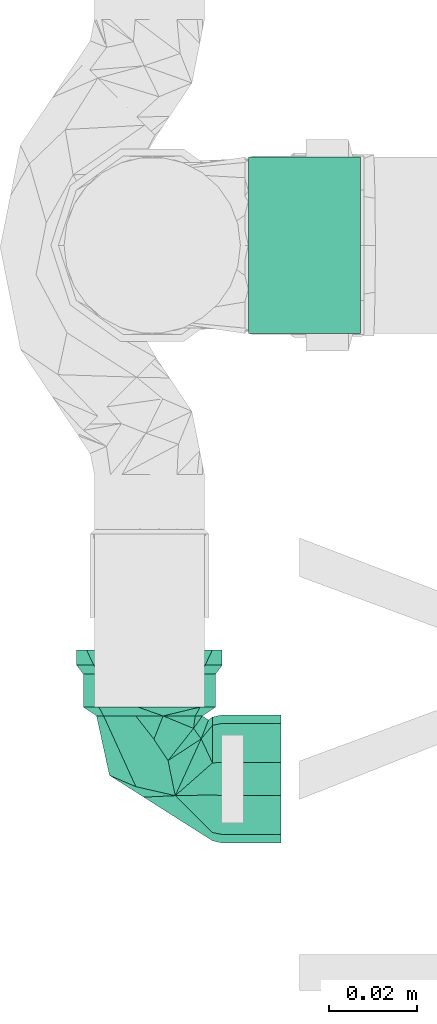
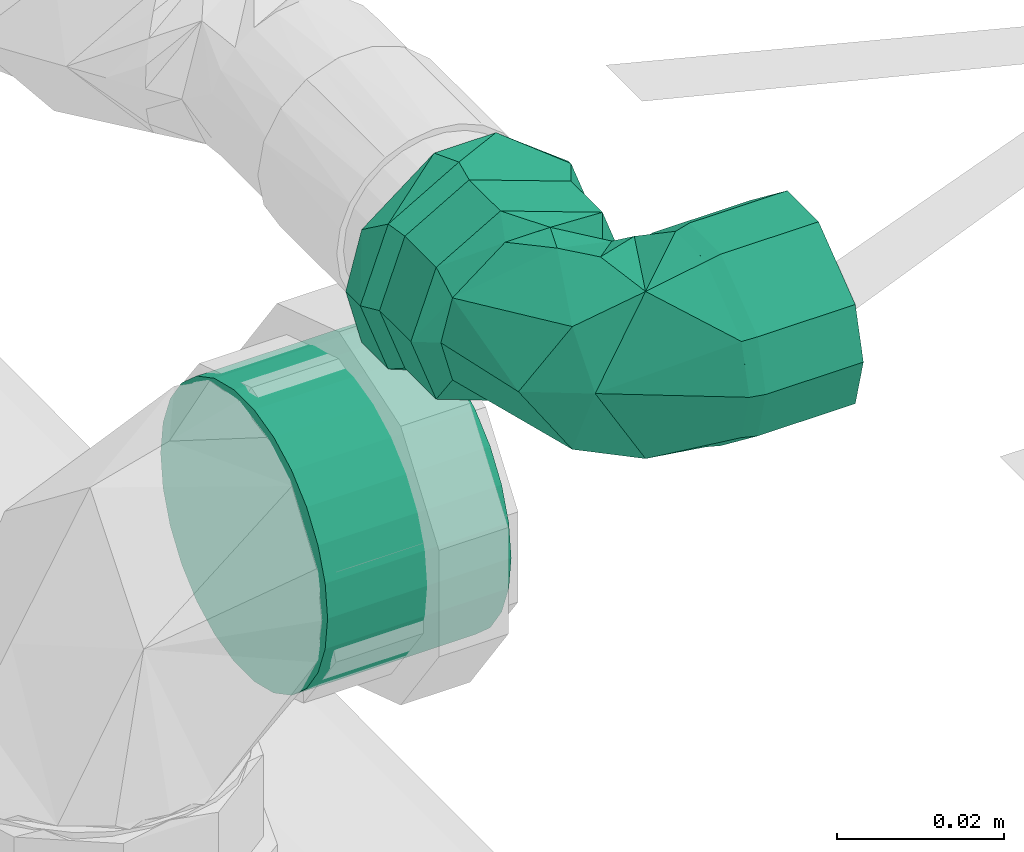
# One storey, part 318 of 589: 1 flow fitting, 1 flow segment.
"""IFC2X3 building model written with IfcOpenShell, lengths in millimetres."""

from ifc_helpers import new_model, entity, si_unit, converted_unit, derived_unit, direction, frame, origin, origin_2d_with_axis, place, context, subcontext, project, spatial, circle, extrude, faceted_brep, source, transform, mapped, material, type_object, type_shapes, element, save


model = new_model("IFC2X3")

# Units and contexts
model_context = context("Model", 3, precision=0.01, world=origin(), true_north=direction((6.123031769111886e-17, 1.0)))
body_context = subcontext(model_context, "Body", "Model", "MODEL_VIEW")
ifc_project = project(units=[si_unit("LENGTHUNIT", "METRE", prefix="MILLI"), si_unit("AREAUNIT", "SQUARE_METRE"), si_unit("VOLUMEUNIT", "CUBIC_METRE"), converted_unit("PLANEANGLEUNIT", "DEGREE", entity("IfcRatioMeasure", 0.017453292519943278), si_unit("PLANEANGLEUNIT", "RADIAN"), dimensions=[0, 0, 0, 0, 0, 0, 0]), si_unit("MASSUNIT", "GRAM", prefix="KILO"), derived_unit("MASSDENSITYUNIT", [(si_unit("MASSUNIT", "GRAM", prefix="KILO"), 1), (si_unit("LENGTHUNIT", "METRE"), -3)]), derived_unit("IONCONCENTRATIONUNIT", [(si_unit("MASSUNIT", "GRAM", prefix="KILO"), 1), (si_unit("LENGTHUNIT", "METRE"), -3)]), derived_unit("MOMENTOFINERTIAUNIT", [(si_unit("LENGTHUNIT", "METRE"), 4)]), si_unit("TIMEUNIT", "SECOND"), si_unit("FREQUENCYUNIT", "HERTZ"), si_unit("THERMODYNAMICTEMPERATUREUNIT", "DEGREE_CELSIUS"), derived_unit("THERMALTRANSMITTANCEUNIT", [(si_unit("MASSUNIT", "GRAM", prefix="KILO"), 1), (si_unit("THERMODYNAMICTEMPERATUREUNIT", "KELVIN"), -1), (si_unit("TIMEUNIT", "SECOND"), -3)]), derived_unit("THERMALCONDUCTANCEUNIT", [(si_unit("MASSUNIT", "GRAM", prefix="KILO"), 1), (si_unit("THERMODYNAMICTEMPERATUREUNIT", "KELVIN"), -1), (si_unit("TIMEUNIT", "SECOND"), -3), (si_unit("LENGTHUNIT", "METRE"), 1)]), derived_unit("VOLUMETRICFLOWRATEUNIT", [(si_unit("LENGTHUNIT", "METRE"), 3), (si_unit("TIMEUNIT", "SECOND"), -1)]), derived_unit("MASSFLOWRATEUNIT", [(si_unit("MASSUNIT", "GRAM", prefix="KILO"), 1), (si_unit("TIMEUNIT", "SECOND"), -1)]), derived_unit("ROTATIONALFREQUENCYUNIT", [(si_unit("TIMEUNIT", "SECOND"), -1)]), si_unit("ELECTRICCURRENTUNIT", "AMPERE"), si_unit("ELECTRICVOLTAGEUNIT", "VOLT"), si_unit("POWERUNIT", "WATT"), si_unit("FORCEUNIT", "NEWTON", prefix="KILO"), si_unit("ILLUMINANCEUNIT", "LUX"), si_unit("LUMINOUSFLUXUNIT", "LUMEN"), si_unit("LUMINOUSINTENSITYUNIT", "CANDELA"), derived_unit("USERDEFINED", [(si_unit("MASSUNIT", "GRAM", prefix="KILO"), -1), (si_unit("LENGTHUNIT", "METRE"), -2), (si_unit("TIMEUNIT", "SECOND"), 3), (si_unit("LUMINOUSFLUXUNIT", "LUMEN"), 1)]), derived_unit("USERDEFINED", [(si_unit("MASSUNIT", "GRAM", prefix="KILO"), 1), (si_unit("TIMEUNIT", "SECOND"), -3), (si_unit("LENGTHUNIT", "METRE"), 3), (si_unit("ELECTRICCURRENTUNIT", "AMPERE"), -2)]), derived_unit("SOUNDPOWERUNIT", [(si_unit("MASSUNIT", "GRAM", prefix="KILO"), 1), (si_unit("TIMEUNIT", "SECOND"), -3), (si_unit("LENGTHUNIT", "METRE"), 2)]), derived_unit("SOUNDPRESSUREUNIT", [(si_unit("MASSUNIT", "GRAM", prefix="KILO"), 1), (si_unit("LENGTHUNIT", "METRE"), -1), (si_unit("TIMEUNIT", "SECOND"), -2)]), derived_unit("LINEARVELOCITYUNIT", [(si_unit("LENGTHUNIT", "METRE"), 1), (si_unit("TIMEUNIT", "SECOND"), -1)]), si_unit("PRESSUREUNIT", "PASCAL"), derived_unit("USERDEFINED", [(si_unit("MASSUNIT", "GRAM", prefix="KILO"), 1), (si_unit("LENGTHUNIT", "METRE"), -2), (si_unit("TIMEUNIT", "SECOND"), -2)]), derived_unit("LINEARFORCEUNIT", [(si_unit("MASSUNIT", "GRAM", prefix="KILO"), 1), (si_unit("TIMEUNIT", "SECOND"), -2)]), derived_unit("PLANARFORCEUNIT", [(si_unit("MASSUNIT", "GRAM", prefix="KILO"), 1), (si_unit("LENGTHUNIT", "METRE"), -1), (si_unit("TIMEUNIT", "SECOND"), -2)]), derived_unit("SPECIFICHEATCAPACITYUNIT", [(si_unit("THERMODYNAMICTEMPERATUREUNIT", "KELVIN"), -1), (si_unit("LENGTHUNIT", "METRE"), 2), (si_unit("TIMEUNIT", "SECOND"), -2)]), derived_unit("HEATINGVALUEUNIT", [(si_unit("LENGTHUNIT", "METRE"), 2), (si_unit("TIMEUNIT", "SECOND"), -2)]), derived_unit("VAPORPERMEABILITYUNIT", [(si_unit("LENGTHUNIT", "METRE"), -1), (si_unit("TIMEUNIT", "SECOND"), 1)]), derived_unit("DYNAMICVISCOSITYUNIT", [(si_unit("MASSUNIT", "GRAM", prefix="KILO"), 1), (si_unit("TIMEUNIT", "SECOND"), -1), (si_unit("LENGTHUNIT", "METRE"), -1)]), derived_unit("THERMALEXPANSIONCOEFFICIENTUNIT", [(si_unit("THERMODYNAMICTEMPERATUREUNIT", "KELVIN"), -1)]), derived_unit("MODULUSOFELASTICITYUNIT", [(si_unit("MASSUNIT", "GRAM", prefix="KILO"), 1), (si_unit("LENGTHUNIT", "METRE"), -1), (si_unit("TIMEUNIT", "SECOND"), -2)]), derived_unit("ISOTHERMALMOISTURECAPACITYUNIT", [(si_unit("LENGTHUNIT", "METRE"), 3), (si_unit("MASSUNIT", "GRAM", prefix="KILO"), -1)]), derived_unit("MOISTUREDIFFUSIVITYUNIT", [(si_unit("TIMEUNIT", "SECOND"), -1), (si_unit("LENGTHUNIT", "METRE"), 2)])], contexts=[model_context])

# Site, building, storey
site_placement = place(None, origin())
site = spatial("IfcSite", under=ifc_project, at=site_placement, Name="Default", CompositionType="ELEMENT")
building_placement = place(site_placement, origin())
building = spatial("IfcBuilding", under=site, at=building_placement, CompositionType="ELEMENT")
storey_placement = place(building_placement, frame((0.0, 0.0, 100.0)))
storey = spatial("IfcBuildingStorey", under=building, at=storey_placement, Name="TÉRREO", CompositionType="ELEMENT", Elevation=100.0)

# Flow segment
pipe_segment_type = type_object("IfcPipeSegmentType", Name="Tipos de tubos:PVC Esgoto Série Normal", PredefinedType="NOTDEFINED")
flow_segment_placement = place(storey_placement, origin())
element("IfcFlowSegment", 1, at=flow_segment_placement, inside=storey, type_object=pipe_segment_type, Name="Tipos de tubos:PVC Esgoto Série Normal", ObjectType="Tipos de tubos:PVC Esgoto Série Normal", context=body_context, shape_type="SweptSolid", body=[
    extrude(circle(Radius=20.0, at=origin_2d_with_axis()), frame((1554.276155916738, -9722.851027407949, 495.0), z_axis=(1.0, 0.0, 0.0), x_axis=(0.0, -1.0, 0.0)), (0.0, 0.0, 1.0), 25.399993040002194),
])

# Flow fitting
ifc_material = material(Name="PVC Azul")
pipe_fitting_type = type_object("IfcPipeFittingType", Name="PVC Marrom Soldável_Joelho 90° Azul com Bucha de Latão_Rodrigo MEP:Joelho_20x1/2''_ 25x1/2''_ 25x3/4'' _ 32x3/4''", PredefinedType="NOTDEFINED", material=ifc_material)
shared_shape = source(origin(), body_context, "Body", "Brep", [
    faceted_brep([(-16.299999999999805, 3.7528761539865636, -14.005924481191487), (-16.299999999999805, 2.588190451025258, -9.659258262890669), (-16.299999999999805, -2.5881904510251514, -9.659258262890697), (-16.299999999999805, 12.557368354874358, -7.249999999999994), (-16.299999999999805, -3.7528761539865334, -14.005924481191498), (-16.299999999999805, 8.660254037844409, -5.0), (-16.299999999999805, 10.0, 0.0), (-16.299999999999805, 14.499999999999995, 0.0), (-16.299999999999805, 8.660254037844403, 5.0), (-16.299999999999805, 12.557368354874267, 7.250000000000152), (-16.299999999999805, 2.5881904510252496, 9.659258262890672), (-16.299999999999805, 3.752876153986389, 14.005924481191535), (-16.299999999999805, -2.5881904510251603, 9.659258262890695), (-16.299999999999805, -3.752876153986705, 14.005924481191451), (-16.299999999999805, -8.660254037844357, 5.0), (-16.299999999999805, -12.557368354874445, 7.2499999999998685), (-16.299999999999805, -14.500000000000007, 0.0), (-16.299999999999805, -10.0, 0.0), (-16.299999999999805, -12.557368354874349, -7.250000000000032), (-16.299999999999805, -8.660254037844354, -5.0), (-23.799999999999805, -12.557368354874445, 7.2499999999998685), (-25.7999999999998, -12.557368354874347, 7.250000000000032), (-29.7999999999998, -12.557368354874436, 7.24999999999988), (-29.7999999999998, -14.500000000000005, 0.0), (-25.7999999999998, -14.500000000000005, 0.0), (-23.799999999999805, -14.500000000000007, 0.0), (-23.799999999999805, -3.752876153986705, 14.005924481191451), (-25.7999999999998, -3.7528761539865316, 14.005924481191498), (-29.7999999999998, -3.7528761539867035, 14.005924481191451), (-23.799999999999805, 3.752876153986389, 14.005924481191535), (-25.7999999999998, 3.752876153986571, 14.005924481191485), (-29.7999999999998, 3.75287615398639, 14.005924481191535), (-23.799999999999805, 12.557368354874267, 7.250000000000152), (-25.7999999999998, 12.557368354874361, 7.24999999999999), (-29.7999999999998, 12.557368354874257, 7.250000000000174), (-23.799999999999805, 14.499999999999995, 0.0), (-25.7999999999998, 14.499999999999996, 0.0), (-29.7999999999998, 14.499999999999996, 0.0), (-23.799999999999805, 12.557368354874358, -7.249999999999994), (-25.7999999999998, 12.557368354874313, -7.250000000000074), (-29.7999999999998, 12.557368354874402, -7.249999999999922), (-23.799999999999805, 3.7528761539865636, -14.005924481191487), (-25.7999999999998, 3.752876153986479, -14.00592448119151), (-29.7999999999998, 3.752876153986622, -14.005924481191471), (-23.799999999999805, -3.7528761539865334, -14.005924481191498), (-25.7999999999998, -3.7528761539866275, -14.005924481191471), (-29.7999999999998, -3.752876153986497, -14.005924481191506), (-23.799999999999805, -12.557368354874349, -7.250000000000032), (-25.7999999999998, -12.55736835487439, -7.249999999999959), (-29.7999999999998, -12.557368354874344, -7.250000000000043), (-29.79999999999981, 10.0, 0.0), (-29.7999999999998, 8.660254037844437, 5.0), (-29.7999999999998, 2.5881904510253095, 9.659258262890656), (-29.7999999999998, -2.5881904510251, 9.659258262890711), (-29.7999999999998, -8.660254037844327, 5.0), (-29.7999999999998, -10.0, 0.0), (-29.7999999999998, -8.660254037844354, -5.0), (-29.7999999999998, -2.588190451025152, -9.659258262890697), (-29.7999999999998, 2.588190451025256, -9.659258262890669), (-29.7999999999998, 8.66025403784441, -5.0)], [[[0, 1, 2]], [[1, 0, 3]], [[2, 4, 0]], [[3, 5, 1]], [[3, 6, 5]], [[6, 3, 7]], [[8, 6, 7]], [[8, 7, 9]], [[9, 10, 8]], [[9, 11, 10]], [[10, 11, 12]], [[13, 12, 11]], [[13, 14, 12]], [[14, 13, 15]], [[16, 14, 15]], [[17, 14, 16]], [[18, 17, 16]], [[18, 19, 17]], [[19, 18, 4]], [[4, 2, 19]], [[20, 21, 22, 23, 24, 25, 16, 15]], [[26, 27, 28, 22, 21, 20, 15, 13]], [[13, 11, 29, 30, 31, 28, 27, 26]], [[32, 33, 34, 31, 30, 29, 11, 9]], [[35, 36, 37, 34, 33, 32, 9, 7]], [[38, 39, 40, 37, 36, 35, 7, 3]], [[41, 42, 43, 40, 39, 38, 3, 0]], [[0, 4, 44, 45, 46, 43, 42, 41]], [[47, 48, 49, 46, 45, 44, 4, 18]], [[25, 24, 23, 49, 48, 47, 18, 16]], [[50, 6, 8, 51]], [[51, 8, 10, 52]], [[10, 12, 53, 52]], [[53, 12, 14, 54]], [[54, 14, 17, 55]], [[55, 17, 19, 56]], [[56, 19, 2, 57]], [[2, 1, 58, 57]], [[58, 1, 5, 59]], [[59, 5, 6, 50]], [[57, 58, 43]], [[43, 46, 57]], [[56, 57, 46]], [[40, 43, 58]], [[58, 59, 40]], [[59, 50, 40]], [[37, 40, 50]], [[37, 50, 51]], [[34, 37, 51]], [[51, 52, 34]], [[52, 31, 34]], [[53, 31, 52]], [[31, 53, 28]], [[53, 54, 28]], [[22, 28, 54]], [[22, 54, 23]], [[23, 54, 55]], [[55, 56, 49]], [[23, 55, 49]], [[46, 49, 56]]]),
    faceted_brep([(-16.299999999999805, 14.499999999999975, 0.0), (-16.299999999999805, 12.557368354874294, -7.250000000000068), (-16.299999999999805, 3.7528761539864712, -14.005924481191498), (-16.299999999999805, -3.75287615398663, -14.005924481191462), (-16.299999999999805, -12.557368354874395, -7.249999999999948), (-16.299999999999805, -14.500000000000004, 0.0), (-16.299999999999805, -12.557368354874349, 7.250000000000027), (-16.299999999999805, -3.752876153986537, 14.005924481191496), (-16.299999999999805, 3.752876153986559, 14.005924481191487), (-16.299999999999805, 12.55736835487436, 7.249999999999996), (-14.299999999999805, 12.158996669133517, 7.019999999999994), (-14.299999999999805, 3.633819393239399, 13.561598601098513), (-14.299999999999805, -3.6338193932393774, 13.56159860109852), (-14.299999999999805, -12.158996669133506, 7.020000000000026), (-14.299999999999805, -14.040000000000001, 0.0), (-14.299999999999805, -12.158996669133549, -7.01999999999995), (-14.299999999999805, -3.633819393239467, -13.561598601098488), (-14.299999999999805, 3.6338193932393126, -13.561598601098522), (-14.299999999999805, 12.158996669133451, -7.020000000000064), (-14.299999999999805, 14.039999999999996, 0.0)], [[[0, 1, 2, 3, 4, 5, 6, 7, 8, 9]], [[10, 11, 12, 13, 14, 15, 16, 17, 18, 19]], [[15, 14, 5, 4]], [[16, 15, 4, 3]], [[3, 2, 17, 16]], [[18, 17, 2, 1]], [[19, 18, 1, 0]], [[10, 19, 0, 9]], [[11, 10, 9, 8]], [[8, 7, 12, 11]], [[13, 12, 7, 6]], [[14, 13, 6, 5]]]),
    faceted_brep([(10.392304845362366, -14.30000000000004, 6.0), (12.0, -14.30000000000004, 0.0), (10.392304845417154, -14.30000000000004, -6.0), (3.1058285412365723, -14.30000000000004, -11.591109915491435), (-3.105828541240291, -14.30000000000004, -11.591109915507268), (-10.392304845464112, -14.30000000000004, -6.0), (-12.0, -14.30000000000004, 0.0), (-10.392304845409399, -14.30000000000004, 6.0), (-3.1058285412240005, -14.30000000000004, 11.591109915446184), (3.105828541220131, -14.30000000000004, 11.59110991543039), (11.490129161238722, -16.29999999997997, -9.64245465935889), (15.0, -16.300000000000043, 0.0), (-2.606781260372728, -16.29999999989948, -14.771753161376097), (-15.0, -16.299999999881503, 0.0), (-11.492547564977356, -16.299999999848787, -9.639572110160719), (-11.4925475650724, -16.300000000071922, 9.639572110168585), (2.603075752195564, -16.30000000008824, 14.77240659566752), (11.490129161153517, -16.300000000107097, 9.642454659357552), (11.490129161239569, -23.800000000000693, 9.64245465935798), (15.0, -23.800000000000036, 0.0), (2.6030757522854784, -23.800000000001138, 14.772406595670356), (-15.0, -23.800000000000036, 0.0), (-11.492547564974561, -23.800000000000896, 9.63957211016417), (-11.492547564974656, -23.79999999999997, -9.639572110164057), (-2.606781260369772, -23.799999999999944, -14.77175316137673), (11.4901291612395, -23.799999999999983, -9.642454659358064), (-12.639142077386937, -25.800000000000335, 10.606700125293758), (-16.500000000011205, -25.800000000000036, 0.0), (2.867459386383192, -25.800000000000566, 16.248928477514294), (12.641802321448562, -25.800000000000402, 10.603529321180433), (16.499999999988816, -25.800000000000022, 0.0), (12.641802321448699, -25.800000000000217, -10.603529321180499), (-2.8633833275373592, -25.80000000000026, -16.24964725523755), (-12.639142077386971, -25.800000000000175, -10.606700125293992), (3.235238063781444, -29.30000000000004, -12.074072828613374), (-3.235238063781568, -29.30000000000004, -12.074072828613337), (-4.270514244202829, -29.30000000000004, -15.937776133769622), (4.27051424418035, -29.30000000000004, -15.937776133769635), (10.825317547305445, -29.30000000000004, -6.250000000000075), (-14.28941916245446, -29.30000000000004, -8.249999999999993), (-10.825317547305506, -29.30000000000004, -6.249999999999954), (-12.499999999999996, -29.30000000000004, 0.0), (-16.500000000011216, -29.30000000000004, 0.0), (-10.825317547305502, -29.30000000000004, 6.249999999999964), (-14.289419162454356, -29.30000000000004, 8.250000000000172), (-3.2352380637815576, -29.30000000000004, 12.074072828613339), (-4.27051424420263, -29.30000000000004, 15.937776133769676), (3.235238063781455, -29.30000000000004, 12.07407282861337), (4.2705142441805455, -29.30000000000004, 15.937776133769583), (10.82531754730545, -29.30000000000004, 6.250000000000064), (14.289419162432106, -29.30000000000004, 8.249999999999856), (16.499999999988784, -29.30000000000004, 0.0), (12.500000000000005, -29.30000000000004, 0.0), (14.289419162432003, -29.30000000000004, -8.250000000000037), (3.235238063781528, -16.30000000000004, -12.07407282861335), (10.82531754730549, -16.300000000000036, -6.249999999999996), (12.500000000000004, -16.300000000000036, 0.0), (10.825317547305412, -16.300000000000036, 6.250000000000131), (3.2352380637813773, -16.30000000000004, 12.07407282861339), (-3.2352380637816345, -16.30000000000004, 12.074072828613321), (-10.825317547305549, -16.300000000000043, 6.249999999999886), (-12.499999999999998, -16.300000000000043, 0.0), (-10.825317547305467, -16.300000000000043, -6.2500000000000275), (-3.2352380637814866, -16.30000000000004, -12.07407282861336)], [[[0, 1, 2, 3, 4, 5, 6, 7, 8, 9]], [[10, 3, 2]], [[11, 2, 1]], [[10, 2, 11]], [[10, 12, 3]], [[13, 6, 5]], [[14, 5, 4]], [[12, 14, 4]], [[13, 5, 14]], [[3, 12, 4]], [[15, 8, 7]], [[13, 7, 6]], [[15, 7, 13]], [[15, 16, 8]], [[11, 1, 0]], [[17, 0, 9]], [[16, 17, 9]], [[11, 0, 17]], [[8, 16, 9]], [[11, 17, 18, 19]], [[20, 18, 17, 16]], [[15, 13, 21, 22]], [[16, 15, 22, 20]], [[13, 14, 23, 21]], [[24, 23, 14, 12]], [[10, 11, 19, 25]], [[12, 10, 25, 24]], [[26, 20, 22]], [[27, 22, 21]], [[26, 22, 27]], [[26, 28, 20]], [[29, 19, 18]], [[18, 28, 29]], [[19, 29, 30]], [[20, 28, 18]], [[31, 25, 19]], [[19, 30, 31]], [[25, 31, 32]], [[32, 24, 25]], [[27, 21, 23]], [[24, 33, 23]], [[27, 23, 33]], [[32, 33, 24]], [[34, 35, 36]], [[36, 37, 34]], [[38, 34, 37]], [[39, 36, 35]], [[35, 40, 39]], [[40, 41, 39]], [[42, 39, 41]], [[42, 41, 43]], [[44, 42, 43]], [[43, 45, 44]], [[45, 46, 44]], [[47, 46, 45]], [[46, 47, 48]], [[47, 49, 48]], [[50, 48, 49]], [[50, 49, 51]], [[51, 49, 52]], [[52, 38, 53]], [[51, 52, 53]], [[37, 53, 38]], [[30, 50, 51]], [[30, 29, 50]], [[48, 50, 29]], [[28, 48, 29]], [[44, 46, 26]], [[42, 44, 27]], [[28, 26, 46]], [[27, 44, 26]], [[48, 28, 46]], [[27, 39, 42]], [[27, 33, 39]], [[36, 39, 33]], [[32, 36, 33]], [[53, 37, 31]], [[51, 53, 30]], [[32, 31, 37]], [[30, 53, 31]], [[36, 32, 37]], [[54, 55, 56, 57, 58, 59, 60, 61, 62, 63]], [[41, 61, 60, 43]], [[43, 60, 59, 45]], [[59, 58, 47, 45]], [[47, 58, 57, 49]], [[49, 57, 56, 52]], [[52, 56, 55, 38]], [[38, 55, 54, 34]], [[54, 63, 35, 34]], [[35, 63, 62, 40]], [[40, 62, 61, 41]]]),
    faceted_brep([(-10.380105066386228, -14.300000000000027, 5.994904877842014), (-12.0, -14.300000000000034, 0.0), (-10.38010506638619, -14.300000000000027, -5.994904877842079), (-3.10520360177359, -14.300000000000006, -11.590281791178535), (3.1056480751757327, -14.299999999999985, -11.590538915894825), (10.39180953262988, -14.299999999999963, -5.999601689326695), (12.0, -14.299999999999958, 0.0), (10.391809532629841, -14.299999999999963, 5.999601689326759), (3.1056480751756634, -14.299999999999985, 11.590538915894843), (-3.1052036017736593, -14.300000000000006, 11.590281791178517), (-14.299999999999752, 14.039999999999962, 0.0), (-14.299999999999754, 12.158417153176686, -7.019533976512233), (-14.299999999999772, 3.633608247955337, -13.560930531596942), (-14.299999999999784, -3.63308821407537, -13.560629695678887), (-14.299999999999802, -12.144722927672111, -7.0140387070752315), (-14.299999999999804, -14.040000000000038, 0.0), (-14.299999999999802, -12.144722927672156, 7.014038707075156), (-14.299999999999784, -3.633088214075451, 13.560629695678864), (-14.299999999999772, 3.6336082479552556, 13.560930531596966), (-14.299999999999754, 12.158417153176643, 7.019533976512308), (-5.857563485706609, 3.7986719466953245, -12.221235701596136), (-11.731981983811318, -9.090980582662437, -10.425762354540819), (-13.394903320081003, -13.394903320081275, 0.0), (-1.015336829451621, -9.007807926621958, -12.492335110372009), (9.064122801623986, -0.8105717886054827, 0.0), (3.0828619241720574, 1.750099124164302, -8.976245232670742), (1.2995100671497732, 4.124727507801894, 0.0), (-10.008512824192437, -11.46627786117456, -8.88261575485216), (-4.216463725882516, -4.16036367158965, -13.02360333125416), (-5.857564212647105, 3.7986709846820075, 12.221236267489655), (-11.731981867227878, -9.090980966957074, 10.425762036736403), (-10.008512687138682, -11.466278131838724, 8.882615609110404), (-4.216465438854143, -4.1603653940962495, 13.02360333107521), (-1.0153385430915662, -9.00780860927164, 12.492335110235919), (3.0828610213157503, 1.7500995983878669, 8.97624566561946)], [[[0, 1, 2, 3, 4, 5, 6, 7, 8, 9]], [[10, 11, 12, 13, 14, 15, 16, 17, 18, 19]], [[11, 20, 12]], [[14, 21, 22]], [[5, 4, 23]], [[24, 25, 26]], [[27, 28, 23]], [[5, 24, 6]], [[25, 23, 28]], [[5, 25, 24]], [[11, 26, 20]], [[28, 21, 20]], [[25, 5, 23]], [[27, 21, 28]], [[21, 14, 13]], [[11, 10, 26]], [[22, 15, 14]], [[22, 21, 27]], [[25, 28, 20]], [[23, 3, 27]], [[1, 22, 27]], [[27, 2, 1]], [[3, 2, 27]], [[13, 20, 21]], [[12, 20, 13]], [[23, 4, 3]], [[26, 25, 20]], [[16, 15, 22]], [[29, 17, 30]], [[0, 9, 31]], [[30, 31, 32]], [[32, 33, 34]], [[1, 31, 22]], [[29, 32, 34]], [[33, 32, 31]], [[30, 17, 16]], [[9, 33, 31]], [[0, 31, 1]], [[31, 30, 22]], [[26, 19, 29]], [[26, 10, 19]], [[26, 34, 24]], [[24, 34, 7]], [[26, 29, 34]], [[34, 33, 7]], [[16, 22, 30]], [[7, 6, 24]], [[8, 7, 33]], [[17, 29, 18]], [[18, 29, 19]], [[33, 9, 8]], [[30, 32, 29]]]),
])
type_shapes(pipe_fitting_type, [shared_shape])
flow_fitting_placement = place(storey_placement, frame((1531.8423921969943, -9843.92160557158, 600.0), z_axis=(0.0, 1.900829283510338e-06, 1.0), x_axis=(-1.0, 0.0, 0.0)))
element("IfcFlowFitting", 2, at=flow_fitting_placement, inside=storey, type_object=pipe_fitting_type, material=ifc_material, Name="PVC Marrom Soldável_Joelho 90° Azul com Bucha de Latão_Rodrigo MEP:Joelho_20x1/2''_ 25x1/2''_ 25x3/4'' _ 32x3/4''", ObjectType="PVC Marrom Soldável_Joelho 90° Azul com Bucha de Latão_Rodrigo MEP:Joelho_20x1/2''_ 25x1/2''_ 25x3/4'' _ 32x3/4''", context=body_context, shape_type="MappedRepresentation", body=[
    mapped(shared_shape, transform((0.0, 0.0, 0.0), scale=1.0)),
])

save(model, "model.ifc")
